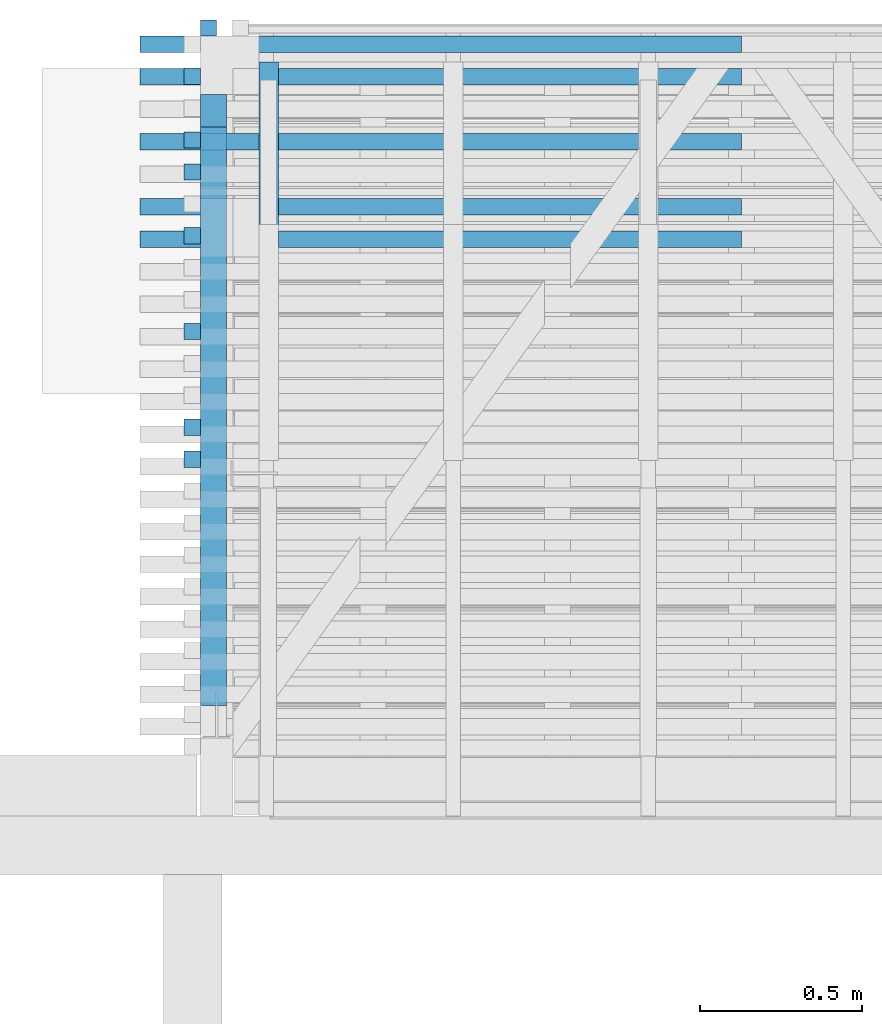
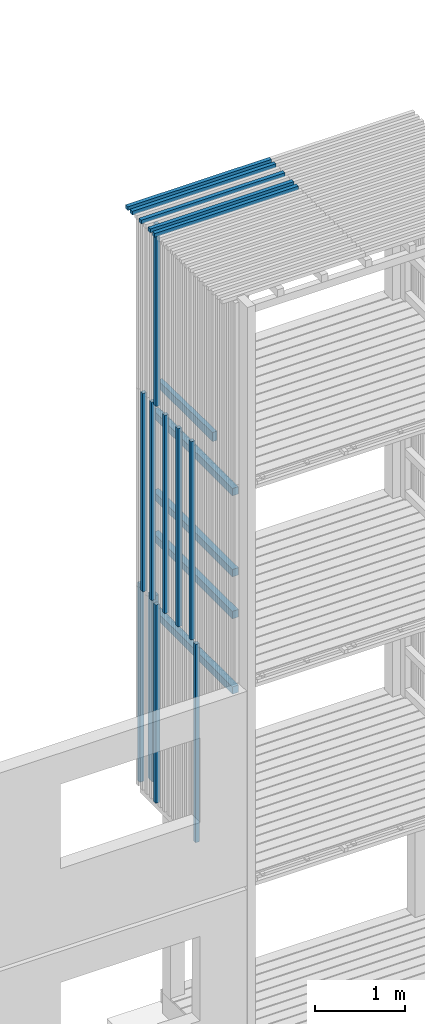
# One storey, part 42 of 182: 20 beams.
"""IFC2X3 building model written with IfcOpenShell, lengths in metres."""

from ifc_helpers import new_model, si_unit, frame, origin, place, context, project, spatial, faceted_brep, element, save


model = new_model("IFC2X3")

# Units and contexts
model_context = context("Model", 3, precision=1e-06, world=origin())
ifc_project = project(units=[si_unit("LENGTHUNIT", "METRE"), si_unit("PLANEANGLEUNIT", "RADIAN")], contexts=[model_context])

# Site, building, storey
site = spatial("IfcSite", under=ifc_project, CompositionType="ELEMENT")
building = spatial("IfcBuilding", under=site, CompositionType="ELEMENT")
storey = spatial("IfcBuildingStorey", under=building, Name="vs", CompositionType="ELEMENT", Elevation=-0.85)

# Beams
placement = place(None, origin())
beam_1_placement = place(placement, frame((14.989197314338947, 12.545077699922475, 10.47999999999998), z_axis=(0.0, 0.0, 1.0), x_axis=(-1.0, -2e-15, 0.0)))
element("IfcBeam", 1, at=beam_1_placement, inside=storey, Name="Bardage", context=model_context, shape_type="Brep", body=[
    faceted_brep([(1.850000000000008, -0.025000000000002, -0.024999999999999), (1.850000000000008, -0.025000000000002, 0.025000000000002), (-1e-15, -0.025000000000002, 0.025000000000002), (-1e-15, -0.025000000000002, -0.024999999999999), (1.850000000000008, -0.025000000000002, 0.025000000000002), (1.850000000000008, -0.025000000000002, -0.024999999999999), (1.850000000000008, 0.024999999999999, -0.024999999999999), (1.850000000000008, 0.024999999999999, 0.025000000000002), (1.850000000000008, 0.024999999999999, -0.024999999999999), (1.850000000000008, -0.025000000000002, -0.024999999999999), (-1e-15, -0.025000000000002, -0.024999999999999), (0.0, 0.025000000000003, -0.024999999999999), (1.850000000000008, 0.024999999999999, 0.025000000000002), (1.850000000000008, 0.024999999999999, -0.024999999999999), (0.0, 0.025000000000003, -0.024999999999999), (0.0, 0.025000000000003, 0.025000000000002), (-1e-15, -0.025000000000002, 0.025000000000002), (1.850000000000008, -0.025000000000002, 0.025000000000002), (1.850000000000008, 0.024999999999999, 0.025000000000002), (0.0, 0.025000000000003, 0.025000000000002), (-1e-15, -0.025000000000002, -0.024999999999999), (-1e-15, -0.025000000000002, 0.025000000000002), (0.0, 0.025000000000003, 0.025000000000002), (0.0, 0.025000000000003, -0.024999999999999)], [[[0, 1, 2, 3]], [[4, 5, 6, 7]], [[8, 9, 10, 11]], [[12, 13, 14, 15]], [[16, 17, 18, 19]], [[20, 21, 22, 23]]]),
])
beam_2_placement = place(placement, frame((13.349197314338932, 12.895077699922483, 2.575000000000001), z_axis=(0.0, -1.0, 0.0), x_axis=(0.0, 0.0, 1.0)))
element("IfcBeam", 2, at=beam_2_placement, inside=storey, Name="Bardage", context=model_context, shape_type="Brep", body=[
    faceted_brep([(0.0, -0.025000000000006, 0.025000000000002), (0.0, 0.024999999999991, 0.025000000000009), (0.0, 0.025000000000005, -0.024999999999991), (0.0, -0.024999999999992, -0.024999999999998), (2.699961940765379, 0.025000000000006, -0.024999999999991), (2.699961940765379, 0.024999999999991, 0.025000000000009), (2.699961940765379, -0.025000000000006, 0.025000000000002), (2.699961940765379, -0.024999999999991, -0.024999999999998), (0.0, -0.024999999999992, -0.024999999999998), (0.0, 0.025000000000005, -0.024999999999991), (2.699961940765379, 0.025000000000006, -0.024999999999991), (2.699961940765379, -0.024999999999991, -0.024999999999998), (2.699961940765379, 0.025000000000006, -0.024999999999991), (0.0, 0.025000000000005, -0.024999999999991), (0.0, 0.024999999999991, 0.025000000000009), (2.699961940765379, 0.024999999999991, 0.025000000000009), (2.699961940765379, 0.024999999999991, 0.025000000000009), (0.0, 0.024999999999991, 0.025000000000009), (0.0, -0.025000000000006, 0.025000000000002), (2.699961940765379, -0.025000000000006, 0.025000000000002), (2.699961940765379, -0.025000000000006, 0.025000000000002), (0.0, -0.025000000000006, 0.025000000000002), (0.0, -0.024999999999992, -0.024999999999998), (2.699961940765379, -0.024999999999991, -0.024999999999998)], [[[0, 1, 2, 3]], [[4, 5, 6, 7]], [[8, 9, 10, 11]], [[12, 13, 14, 15]], [[16, 17, 18, 19]], [[20, 21, 22, 23]]]),
])
beam_3_placement = place(placement, frame((13.299197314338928, 12.550532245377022, 5.274999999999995), z_axis=(1.0, 0.0, 0.0), x_axis=(0.0, 0.0, 1.0)))
element("IfcBeam", 3, at=beam_3_placement, inside=storey, Name="Bardage", context=model_context, shape_type="Brep", body=[
    faceted_brep([(2.699999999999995, 0.025000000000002, 0.025000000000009), (2.699999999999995, -0.025000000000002, 0.025000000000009), (2.699999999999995, -0.025000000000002, -0.025000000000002), (2.699999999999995, 0.025000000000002, -0.025000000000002), (1e-15, 0.025000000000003, 0.025000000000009), (2.699999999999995, 0.025000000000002, 0.025000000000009), (2.699999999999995, 0.025000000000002, -0.025000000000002), (1e-15, 0.025000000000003, -0.025000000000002), (1e-15, -0.025000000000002, 0.025000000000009), (1e-15, 0.025000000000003, 0.025000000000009), (1e-15, 0.025000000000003, -0.025000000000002), (1e-15, -0.025000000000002, -0.025000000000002), (1e-15, 0.025000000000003, 0.025000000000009), (1e-15, -0.025000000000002, 0.025000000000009), (2.699999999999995, -0.025000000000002, 0.025000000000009), (2.699999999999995, 0.025000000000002, 0.025000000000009), (1e-15, -0.025000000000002, 0.025000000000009), (1e-15, -0.025000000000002, -0.025000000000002), (2.699999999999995, -0.025000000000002, -0.025000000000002), (2.699999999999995, -0.025000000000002, 0.025000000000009), (1e-15, -0.025000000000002, -0.025000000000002), (1e-15, 0.025000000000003, -0.025000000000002), (2.699999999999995, 0.025000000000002, -0.025000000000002), (2.699999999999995, -0.025000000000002, -0.025000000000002)], [[[0, 1, 2, 3]], [[4, 5, 6, 7]], [[8, 9, 10, 11]], [[12, 13, 14, 15]], [[16, 17, 18, 19]], [[20, 21, 22, 23]]]),
])
beam_4_placement = place(placement, frame((14.989197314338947, 12.845077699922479, 10.47999999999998), z_axis=(0.0, 0.0, 1.0), x_axis=(-1.0, 0.0, 0.0)))
element("IfcBeam", 4, at=beam_4_placement, inside=storey, Name="Bardage", context=model_context, shape_type="Brep", body=[
    faceted_brep([(1.850000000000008, -0.024999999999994, -0.024999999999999), (1.850000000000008, -0.024999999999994, 0.025000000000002), (-1e-15, -0.024999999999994, 0.025000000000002), (-1e-15, -0.024999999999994, -0.024999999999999), (1.850000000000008, -0.024999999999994, 0.025000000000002), (1.850000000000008, -0.024999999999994, -0.024999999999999), (1.850000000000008, 0.025000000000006, -0.024999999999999), (1.850000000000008, 0.025000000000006, 0.025000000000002), (1.850000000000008, 0.025000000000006, -0.024999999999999), (1.850000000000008, -0.024999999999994, -0.024999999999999), (-1e-15, -0.024999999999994, -0.024999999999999), (-1e-15, 0.025000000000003, -0.024999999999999), (1.850000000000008, 0.025000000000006, 0.025000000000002), (1.850000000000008, 0.025000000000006, -0.024999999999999), (-1e-15, 0.025000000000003, -0.024999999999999), (-1e-15, 0.025000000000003, 0.025000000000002), (-1e-15, -0.024999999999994, 0.025000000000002), (1.850000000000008, -0.024999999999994, 0.025000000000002), (1.850000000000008, 0.025000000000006, 0.025000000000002), (-1e-15, 0.025000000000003, 0.025000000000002), (-1e-15, -0.024999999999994, -0.024999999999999), (-1e-15, -0.024999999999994, 0.025000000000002), (-1e-15, 0.025000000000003, 0.025000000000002), (-1e-15, 0.025000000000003, -0.024999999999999)], [[[0, 1, 2, 3]], [[4, 5, 6, 7]], [[8, 9, 10, 11]], [[12, 13, 14, 15]], [[16, 17, 18, 19]], [[20, 21, 22, 23]]]),
])
beam_5_placement = place(placement, frame((13.364197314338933, 12.640077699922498, 2.746999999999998), z_axis=(0.0, -1.0, 0.0), x_axis=(0.0, 0.0, 1.0)))
element("IfcBeam", 5, at=beam_5_placement, inside=storey, Name="Support bardage", context=model_context, shape_type="Brep", body=[
    faceted_brep([(2.527961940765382, 0.039999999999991, 0.049999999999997), (2.527961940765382, -0.040000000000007, 0.049999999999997), (2.527961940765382, -0.040000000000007, -0.050000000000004), (2.527961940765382, 0.039999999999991, -0.050000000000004), (0.0, 0.039999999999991, 0.049999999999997), (2.527961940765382, 0.039999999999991, 0.049999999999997), (2.527961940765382, 0.039999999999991, -0.050000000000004), (0.0, 0.039999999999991, -0.050000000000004), (0.0, 0.039999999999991, 0.049999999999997), (0.0, 0.039999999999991, -0.050000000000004), (0.0, -0.040000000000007, -0.050000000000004), (0.0, -0.040000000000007, 0.049999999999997), (0.0, 0.039999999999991, 0.049999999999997), (0.0, -0.040000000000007, 0.049999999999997), (2.527961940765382, -0.040000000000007, 0.049999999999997), (2.527961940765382, 0.039999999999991, 0.049999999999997), (0.0, -0.040000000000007, 0.049999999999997), (0.0, -0.040000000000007, -0.050000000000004), (2.527961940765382, -0.040000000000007, -0.050000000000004), (2.527961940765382, -0.040000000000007, 0.049999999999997), (0.0, -0.040000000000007, -0.050000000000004), (0.0, 0.039999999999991, -0.050000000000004), (2.527961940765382, 0.039999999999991, -0.050000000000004), (2.527961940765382, -0.040000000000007, -0.050000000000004)], [[[0, 1, 2, 3]], [[4, 5, 6, 7]], [[8, 9, 10, 11]], [[12, 13, 14, 15]], [[16, 17, 18, 19]], [[20, 21, 22, 23]]]),
])
beam_6_placement = place(placement, frame((14.989197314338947, 12.745077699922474, 10.47999999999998), z_axis=(0.0, 0.0, 1.0), x_axis=(-1.0, 0.0, 0.0)))
element("IfcBeam", 6, at=beam_6_placement, inside=storey, Name="Bardage", context=model_context, shape_type="Brep", body=[
    faceted_brep([(1.850000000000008, -0.024999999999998, -0.024999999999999), (1.850000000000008, -0.024999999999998, 0.025000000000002), (-1e-15, -0.024999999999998, 0.025000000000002), (-1e-15, -0.024999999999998, -0.024999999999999), (1.850000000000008, -0.024999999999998, 0.025000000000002), (1.850000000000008, -0.024999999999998, -0.024999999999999), (1.850000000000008, 0.024999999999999, -0.024999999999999), (1.850000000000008, 0.024999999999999, 0.025000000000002), (1.850000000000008, 0.024999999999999, -0.024999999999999), (1.850000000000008, -0.024999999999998, -0.024999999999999), (-1e-15, -0.024999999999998, -0.024999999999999), (-1e-15, 0.024999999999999, -0.024999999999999), (1.850000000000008, 0.024999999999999, 0.025000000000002), (1.850000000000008, 0.024999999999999, -0.024999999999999), (-1e-15, 0.024999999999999, -0.024999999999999), (-1e-15, 0.024999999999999, 0.025000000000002), (-1e-15, -0.024999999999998, 0.025000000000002), (1.850000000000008, -0.024999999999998, 0.025000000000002), (1.850000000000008, 0.024999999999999, 0.025000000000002), (-1e-15, 0.024999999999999, 0.025000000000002), (-1e-15, -0.024999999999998, -0.024999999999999), (-1e-15, -0.024999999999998, 0.025000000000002), (-1e-15, 0.024999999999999, 0.025000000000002), (-1e-15, 0.024999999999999, -0.024999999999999)], [[[0, 1, 2, 3]], [[4, 5, 6, 7]], [[8, 9, 10, 11]], [[12, 13, 14, 15]], [[16, 17, 18, 19]], [[20, 21, 22, 23]]]),
])
beam_7_placement = place(placement, frame((13.299197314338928, 12.746895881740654, 5.274999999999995), z_axis=(1.0, 0.0, 0.0), x_axis=(0.0, 0.0, 1.0)))
element("IfcBeam", 7, at=beam_7_placement, inside=storey, Name="Bardage", context=model_context, shape_type="Brep", body=[
    faceted_brep([(2.699999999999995, 0.024999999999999, 0.025000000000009), (2.699999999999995, -0.025000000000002, 0.025000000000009), (2.699999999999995, -0.025000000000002, -0.025000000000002), (2.699999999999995, 0.024999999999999, -0.025000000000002), (1e-15, 0.024999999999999, 0.025000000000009), (2.699999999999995, 0.024999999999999, 0.025000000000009), (2.699999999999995, 0.024999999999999, -0.025000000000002), (1e-15, 0.024999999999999, -0.025000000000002), (1e-15, -0.024999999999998, 0.025000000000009), (1e-15, 0.024999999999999, 0.025000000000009), (1e-15, 0.024999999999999, -0.025000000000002), (1e-15, -0.024999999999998, -0.025000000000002), (1e-15, 0.024999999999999, 0.025000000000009), (1e-15, -0.024999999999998, 0.025000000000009), (2.699999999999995, -0.025000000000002, 0.025000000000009), (2.699999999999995, 0.024999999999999, 0.025000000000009), (1e-15, -0.024999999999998, 0.025000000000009), (1e-15, -0.024999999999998, -0.025000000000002), (2.699999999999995, -0.025000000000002, -0.025000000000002), (2.699999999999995, -0.025000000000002, 0.025000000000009), (1e-15, -0.024999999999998, -0.025000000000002), (1e-15, 0.024999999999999, -0.025000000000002), (2.699999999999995, 0.024999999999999, -0.025000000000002), (2.699999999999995, -0.025000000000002, -0.025000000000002)], [[[0, 1, 2, 3]], [[4, 5, 6, 7]], [[8, 9, 10, 11]], [[12, 13, 14, 15]], [[16, 17, 18, 19]], [[20, 21, 22, 23]]]),
])
beam_8_placement = place(placement, frame((13.364197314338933, 10.810077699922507, 6.672499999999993), z_axis=(0.0, 0.0, 1.0), x_axis=(0.0, 1.0, 0.0)))
element("IfcBeam", 8, at=beam_8_placement, inside=storey, Name="Support bardage", context=model_context, shape_type="Brep", body=[
    faceted_brep([(1.779999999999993, 0.039999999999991, -0.05), (1.779999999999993, 0.039999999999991, 0.050000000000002), (1.779999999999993, -0.040000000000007, 0.050000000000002), (1.779999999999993, -0.040000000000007, -0.05), (1.779999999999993, -0.040000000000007, 0.050000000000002), (1.779999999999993, 0.039999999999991, 0.050000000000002), (-4e-15, 0.039999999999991, 0.050000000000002), (-4e-15, -0.040000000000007, 0.050000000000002), (-4e-15, 0.039999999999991, 0.050000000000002), (1.779999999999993, 0.039999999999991, 0.050000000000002), (1.779999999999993, 0.039999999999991, -0.05), (-4e-15, 0.039999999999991, -0.05), (1.779999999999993, -0.040000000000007, -0.05), (1.779999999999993, -0.040000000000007, 0.050000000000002), (-4e-15, -0.040000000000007, 0.050000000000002), (-4e-15, -0.040000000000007, -0.05), (-4e-15, 0.039999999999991, -0.05), (1.779999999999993, 0.039999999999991, -0.05), (1.779999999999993, -0.040000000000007, -0.05), (-4e-15, -0.040000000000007, -0.05), (-4e-15, 0.039999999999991, 0.050000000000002), (-4e-15, 0.039999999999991, -0.05), (-4e-15, -0.040000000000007, -0.05), (-4e-15, -0.040000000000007, 0.050000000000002)], [[[0, 1, 2, 3]], [[4, 5, 6, 7]], [[8, 9, 10, 11]], [[12, 13, 14, 15]], [[16, 17, 18, 19]], [[20, 21, 22, 23]]]),
])
beam_9_placement = place(placement, frame((13.299197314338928, 11.666895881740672, 5.274999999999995), z_axis=(1.0, 0.0, 0.0), x_axis=(0.0, 0.0, 1.0)))
element("IfcBeam", 9, at=beam_9_placement, inside=storey, Name="Bardage", context=model_context, shape_type="Brep", body=[
    faceted_brep([(2.699999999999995, 0.025000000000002, 0.025000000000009), (2.699999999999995, -0.024999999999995, 0.025000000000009), (2.699999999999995, -0.024999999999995, -0.025000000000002), (2.699999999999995, 0.025000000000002, -0.025000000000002), (1e-15, 0.025000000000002, 0.025000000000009), (2.699999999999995, 0.025000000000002, 0.025000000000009), (2.699999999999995, 0.025000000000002, -0.025000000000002), (1e-15, 0.025000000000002, -0.025000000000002), (1e-15, -0.024999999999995, 0.025000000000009), (1e-15, 0.025000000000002, 0.025000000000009), (1e-15, 0.025000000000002, -0.025000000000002), (1e-15, -0.024999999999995, -0.025000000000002), (1e-15, 0.025000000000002, 0.025000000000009), (1e-15, -0.024999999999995, 0.025000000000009), (2.699999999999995, -0.024999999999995, 0.025000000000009), (2.699999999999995, 0.025000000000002, 0.025000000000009), (1e-15, -0.024999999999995, 0.025000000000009), (1e-15, -0.024999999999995, -0.025000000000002), (2.699999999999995, -0.024999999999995, -0.025000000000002), (2.699999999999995, -0.024999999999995, 0.025000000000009), (1e-15, -0.024999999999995, -0.025000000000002), (1e-15, 0.025000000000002, -0.025000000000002), (2.699999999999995, 0.025000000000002, -0.025000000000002), (2.699999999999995, -0.024999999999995, -0.025000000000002)], [[[0, 1, 2, 3]], [[4, 5, 6, 7]], [[8, 9, 10, 11]], [[12, 13, 14, 15]], [[16, 17, 18, 19]], [[20, 21, 22, 23]]]),
])
beam_10_placement = place(placement, frame((13.299197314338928, 12.452350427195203, 7.974999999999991), z_axis=(1.0, 0.0, 0.0), x_axis=(0.0, 0.0, 1.0)))
element("IfcBeam", 10, at=beam_10_placement, inside=storey, Name="Bardage", context=model_context, shape_type="Brep", body=[
    faceted_brep([(0.0, -0.024999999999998, 0.025000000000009), (0.0, 0.024999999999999, 0.025000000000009), (0.0, 0.024999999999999, -0.025000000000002), (0.0, -0.024999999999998, -0.025000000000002), (2.479999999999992, 0.024999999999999, -0.025000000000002), (2.479999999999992, 0.024999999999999, 0.025000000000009), (2.479999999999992, -0.024999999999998, 0.025000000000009), (2.479999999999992, -0.024999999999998, -0.025000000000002), (0.0, 0.024999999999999, 0.025000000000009), (0.0, -0.024999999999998, 0.025000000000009), (2.479999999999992, -0.024999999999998, 0.025000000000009), (2.479999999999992, 0.024999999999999, 0.025000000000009), (0.0, 0.024999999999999, -0.025000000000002), (0.0, 0.024999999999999, 0.025000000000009), (2.479999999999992, 0.024999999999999, 0.025000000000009), (2.479999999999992, 0.024999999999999, -0.025000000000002), (0.0, -0.024999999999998, -0.025000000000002), (0.0, 0.024999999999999, -0.025000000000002), (2.479999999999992, 0.024999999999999, -0.025000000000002), (2.479999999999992, -0.024999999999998, -0.025000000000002), (2.479999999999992, -0.024999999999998, 0.025000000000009), (0.0, -0.024999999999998, 0.025000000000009), (0.0, -0.024999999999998, -0.025000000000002), (2.479999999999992, -0.024999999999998, -0.025000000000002)], [[[0, 1, 2, 3]], [[4, 5, 6, 7]], [[8, 9, 10, 11]], [[12, 13, 14, 15]], [[16, 17, 18, 19]], [[20, 21, 22, 23]]]),
])
beam_11_placement = place(placement, frame((13.299197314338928, 12.452350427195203, 2.575000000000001), z_axis=(1.0, 0.0, 0.0), x_axis=(0.0, 0.0, 1.0)))
element("IfcBeam", 11, at=beam_11_placement, inside=storey, Name="Bardage", context=model_context, shape_type="Brep", body=[
    faceted_brep([(2.699961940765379, -0.024999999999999, 0.025000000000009), (2.699961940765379, -0.024999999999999, -0.025000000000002), (2.699961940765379, 0.024999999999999, -0.025000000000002), (2.699961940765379, 0.024999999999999, 0.025000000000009), (0.0, -0.024999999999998, 0.025000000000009), (2.699961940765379, -0.024999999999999, 0.025000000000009), (2.699961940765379, 0.024999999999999, 0.025000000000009), (0.0, 0.024999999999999, 0.025000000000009), (0.0, -0.024999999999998, 0.025000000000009), (0.0, 0.024999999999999, 0.025000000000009), (0.0, 0.024999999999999, -0.025000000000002), (0.0, -0.024999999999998, -0.025000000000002), (0.0, -0.024999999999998, 0.025000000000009), (0.0, -0.024999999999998, -0.025000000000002), (2.699961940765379, -0.024999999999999, -0.025000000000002), (2.699961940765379, -0.024999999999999, 0.025000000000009), (0.0, -0.024999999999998, -0.025000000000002), (0.0, 0.024999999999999, -0.025000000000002), (2.699961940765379, 0.024999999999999, -0.025000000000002), (2.699961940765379, -0.024999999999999, -0.025000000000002), (0.0, 0.024999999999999, -0.025000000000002), (0.0, 0.024999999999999, 0.025000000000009), (2.699961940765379, 0.024999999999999, 0.025000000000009), (2.699961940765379, 0.024999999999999, -0.025000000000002)], [[[0, 1, 2, 3]], [[4, 5, 6, 7]], [[8, 9, 10, 11]], [[12, 13, 14, 15]], [[16, 17, 18, 19]], [[20, 21, 22, 23]]]),
])
beam_12_placement = place(placement, frame((13.534197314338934, 11.565077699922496, 8.00424999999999), z_axis=(0.0, 0.0, 1.0), x_axis=(0.0, 1.0, 0.0)))
element("IfcBeam", 12, at=beam_12_placement, inside=storey, Name="Solive", context=model_context, shape_type="Brep", body=[
    faceted_brep([(0.0, -0.030000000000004, -0.061849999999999), (1.225000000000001, -0.030000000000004, -0.061849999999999), (1.225000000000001, -0.030000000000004, 0.037349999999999), (0.0, -0.030000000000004, 0.061849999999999), (0.0, 0.029999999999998, -0.061849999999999), (1.225000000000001, 0.029999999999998, -0.061849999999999), (1.225000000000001, -0.030000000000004, -0.061849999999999), (0.0, -0.030000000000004, -0.061849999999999), (0.0, 0.029999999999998, 0.061850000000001), (0.0, 0.029999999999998, -0.061849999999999), (0.0, -0.030000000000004, -0.061849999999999), (0.0, -0.030000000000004, 0.061849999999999), (1.225000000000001, 0.029999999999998, -0.061849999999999), (0.0, 0.029999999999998, -0.061849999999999), (0.0, 0.029999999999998, 0.061850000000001), (1.225000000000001, 0.029999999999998, 0.037349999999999), (1.225000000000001, -0.030000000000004, 0.037349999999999), (1.225000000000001, -0.030000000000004, -0.061849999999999), (1.225000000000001, 0.029999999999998, -0.061849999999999), (1.225000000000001, 0.029999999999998, 0.037349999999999), (0.0, -0.030000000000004, 0.061849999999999), (1.225000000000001, -0.030000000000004, 0.037349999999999), (1.225000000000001, 0.029999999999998, 0.037349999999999), (0.0, 0.029999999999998, 0.061850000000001)], [[[0, 1, 2, 3]], [[4, 5, 6, 7]], [[8, 9, 10, 11]], [[12, 13, 14, 15]], [[16, 17, 18, 19]], [[20, 21, 22, 23]]]),
])
beam_13_placement = place(placement, frame((13.364197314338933, 10.810077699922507, 5.074999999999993), z_axis=(0.0, 0.0, 1.0), x_axis=(0.0, 1.0, 0.0)))
element("IfcBeam", 13, at=beam_13_placement, inside=storey, Name="Support bardage", context=model_context, shape_type="Brep", body=[
    faceted_brep([(1.779999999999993, 0.039999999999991, -0.050000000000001), (1.779999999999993, 0.039999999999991, 0.050000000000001), (1.779999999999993, -0.040000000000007, 0.050000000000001), (1.779999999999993, -0.040000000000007, -0.050000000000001), (1.779999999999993, -0.040000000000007, 0.050000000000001), (1.779999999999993, 0.039999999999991, 0.050000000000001), (-4e-15, 0.039999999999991, 0.050000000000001), (-4e-15, -0.040000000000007, 0.050000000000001), (-4e-15, 0.039999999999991, 0.050000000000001), (1.779999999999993, 0.039999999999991, 0.050000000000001), (1.779999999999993, 0.039999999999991, -0.050000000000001), (-4e-15, 0.039999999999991, -0.050000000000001), (1.779999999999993, -0.040000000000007, -0.050000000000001), (1.779999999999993, -0.040000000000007, 0.050000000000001), (-4e-15, -0.040000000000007, 0.050000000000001), (-4e-15, -0.040000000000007, -0.050000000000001), (-4e-15, 0.039999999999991, -0.050000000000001), (1.779999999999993, 0.039999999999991, -0.050000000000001), (1.779999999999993, -0.040000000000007, -0.050000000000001), (-4e-15, -0.040000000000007, -0.050000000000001), (-4e-15, 0.039999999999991, 0.050000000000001), (-4e-15, 0.039999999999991, -0.050000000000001), (-4e-15, -0.040000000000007, -0.050000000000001), (-4e-15, -0.040000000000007, 0.050000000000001)], [[[0, 1, 2, 3]], [[4, 5, 6, 7]], [[8, 9, 10, 11]], [[12, 13, 14, 15]], [[16, 17, 18, 19]], [[20, 21, 22, 23]]]),
])
beam_14_placement = place(placement, frame((13.299197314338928, 11.568714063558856, 2.575000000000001), z_axis=(1.0, 0.0, 0.0), x_axis=(0.0, 0.0, 1.0)))
element("IfcBeam", 14, at=beam_14_placement, inside=storey, Name="Bardage", context=model_context, shape_type="Brep", body=[
    faceted_brep([(2.699961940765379, -0.024999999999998, 0.025000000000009), (2.699961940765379, -0.024999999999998, -0.025000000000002), (2.699961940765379, 0.025000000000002, -0.025000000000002), (2.699961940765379, 0.025000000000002, 0.025000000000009), (0.0, -0.024999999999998, 0.025000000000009), (2.699961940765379, -0.024999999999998, 0.025000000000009), (2.699961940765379, 0.025000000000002, 0.025000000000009), (0.0, 0.025000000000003, 0.025000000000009), (0.0, -0.024999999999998, 0.025000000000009), (0.0, 0.025000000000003, 0.025000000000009), (0.0, 0.025000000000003, -0.025000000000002), (0.0, -0.024999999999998, -0.025000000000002), (0.0, -0.024999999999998, 0.025000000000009), (0.0, -0.024999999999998, -0.025000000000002), (2.699961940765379, -0.024999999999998, -0.025000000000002), (2.699961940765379, -0.024999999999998, 0.025000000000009), (0.0, -0.024999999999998, -0.025000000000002), (0.0, 0.025000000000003, -0.025000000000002), (2.699961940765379, 0.025000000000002, -0.025000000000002), (2.699961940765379, -0.024999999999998, -0.025000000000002), (0.0, 0.025000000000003, -0.025000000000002), (0.0, 0.025000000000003, 0.025000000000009), (2.699961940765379, 0.025000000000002, 0.025000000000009), (2.699961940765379, 0.025000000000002, -0.025000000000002)], [[[0, 1, 2, 3]], [[4, 5, 6, 7]], [[8, 9, 10, 11]], [[12, 13, 14, 15]], [[16, 17, 18, 19]], [[20, 21, 22, 23]]]),
])
beam_15_placement = place(placement, frame((13.299197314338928, 12.25598679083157, 5.274999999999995), z_axis=(1.0, 0.0, 0.0), x_axis=(0.0, 0.0, 1.0)))
element("IfcBeam", 15, at=beam_15_placement, inside=storey, Name="Bardage", context=model_context, shape_type="Brep", body=[
    faceted_brep([(2.699999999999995, 0.024999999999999, 0.025000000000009), (2.699999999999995, -0.025000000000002, 0.025000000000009), (2.699999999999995, -0.025000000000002, -0.025000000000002), (2.699999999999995, 0.024999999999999, -0.025000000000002), (1e-15, 0.024999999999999, 0.025000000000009), (2.699999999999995, 0.024999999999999, 0.025000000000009), (2.699999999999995, 0.024999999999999, -0.025000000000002), (1e-15, 0.024999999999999, -0.025000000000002), (1e-15, -0.025000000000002, 0.025000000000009), (1e-15, 0.024999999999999, 0.025000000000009), (1e-15, 0.024999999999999, -0.025000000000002), (1e-15, -0.025000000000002, -0.025000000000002), (1e-15, 0.024999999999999, 0.025000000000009), (1e-15, -0.025000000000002, 0.025000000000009), (2.699999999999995, -0.025000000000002, 0.025000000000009), (2.699999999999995, 0.024999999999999, 0.025000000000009), (1e-15, -0.025000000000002, 0.025000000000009), (1e-15, -0.025000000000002, -0.025000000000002), (2.699999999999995, -0.025000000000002, -0.025000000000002), (2.699999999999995, -0.025000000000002, 0.025000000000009), (1e-15, -0.025000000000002, -0.025000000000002), (1e-15, 0.024999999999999, -0.025000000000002), (2.699999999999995, 0.024999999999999, -0.025000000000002), (2.699999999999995, -0.025000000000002, -0.025000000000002)], [[[0, 1, 2, 3]], [[4, 5, 6, 7]], [[8, 9, 10, 11]], [[12, 13, 14, 15]], [[16, 17, 18, 19]], [[20, 21, 22, 23]]]),
])
beam_16_placement = place(placement, frame((14.989197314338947, 12.245077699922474, 10.47999999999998), z_axis=(0.0, 0.0, 1.0), x_axis=(-1.0, 0.0, 0.0)))
element("IfcBeam", 16, at=beam_16_placement, inside=storey, Name="Bardage", context=model_context, shape_type="Brep", body=[
    faceted_brep([(1.850000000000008, -0.024999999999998, -0.024999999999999), (1.850000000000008, -0.024999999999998, 0.025000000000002), (-1e-15, -0.024999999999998, 0.025000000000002), (-1e-15, -0.024999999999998, -0.024999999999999), (1.850000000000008, -0.024999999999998, 0.025000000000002), (1.850000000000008, -0.024999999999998, -0.024999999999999), (1.850000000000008, 0.024999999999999, -0.024999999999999), (1.850000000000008, 0.024999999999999, 0.025000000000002), (1.850000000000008, 0.024999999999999, -0.024999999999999), (1.850000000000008, -0.024999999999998, -0.024999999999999), (-1e-15, -0.024999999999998, -0.024999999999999), (-1e-15, 0.024999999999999, -0.024999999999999), (1.850000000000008, 0.024999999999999, 0.025000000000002), (1.850000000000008, 0.024999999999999, -0.024999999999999), (-1e-15, 0.024999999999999, -0.024999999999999), (-1e-15, 0.024999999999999, 0.025000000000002), (-1e-15, -0.024999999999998, 0.025000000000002), (1.850000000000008, -0.024999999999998, 0.025000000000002), (1.850000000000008, 0.024999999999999, 0.025000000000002), (-1e-15, 0.024999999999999, 0.025000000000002), (-1e-15, -0.024999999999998, -0.024999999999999), (-1e-15, -0.024999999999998, 0.025000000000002), (-1e-15, 0.024999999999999, 0.025000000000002), (-1e-15, 0.024999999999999, -0.024999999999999)], [[[0, 1, 2, 3]], [[4, 5, 6, 7]], [[8, 9, 10, 11]], [[12, 13, 14, 15]], [[16, 17, 18, 19]], [[20, 21, 22, 23]]]),
])
beam_17_placement = place(placement, frame((14.989197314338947, 12.345077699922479, 10.47999999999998), z_axis=(0.0, 0.0, 1.0), x_axis=(-1.0, 0.0, 0.0)))
element("IfcBeam", 17, at=beam_17_placement, inside=storey, Name="Bardage", context=model_context, shape_type="Brep", body=[
    faceted_brep([(1.850000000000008, -0.024999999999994, -0.024999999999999), (1.850000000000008, -0.024999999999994, 0.025000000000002), (-1e-15, -0.024999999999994, 0.025000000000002), (-1e-15, -0.024999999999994, -0.024999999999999), (1.850000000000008, -0.024999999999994, 0.025000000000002), (1.850000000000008, -0.024999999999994, -0.024999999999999), (1.850000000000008, 0.025000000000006, -0.024999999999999), (1.850000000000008, 0.025000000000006, 0.025000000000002), (1.850000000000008, 0.025000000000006, -0.024999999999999), (1.850000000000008, -0.024999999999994, -0.024999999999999), (-1e-15, -0.024999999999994, -0.024999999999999), (-1e-15, 0.025000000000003, -0.024999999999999), (1.850000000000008, 0.025000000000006, 0.025000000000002), (1.850000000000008, 0.025000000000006, -0.024999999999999), (-1e-15, 0.025000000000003, -0.024999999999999), (-1e-15, 0.025000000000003, 0.025000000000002), (-1e-15, -0.024999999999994, 0.025000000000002), (1.850000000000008, -0.024999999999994, 0.025000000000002), (1.850000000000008, 0.025000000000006, 0.025000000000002), (-1e-15, 0.025000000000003, 0.025000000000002), (-1e-15, -0.024999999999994, -0.024999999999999), (-1e-15, -0.024999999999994, 0.025000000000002), (-1e-15, 0.025000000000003, 0.025000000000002), (-1e-15, 0.025000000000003, -0.024999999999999)], [[[0, 1, 2, 3]], [[4, 5, 6, 7]], [[8, 9, 10, 11]], [[12, 13, 14, 15]], [[16, 17, 18, 19]], [[20, 21, 22, 23]]]),
])
beam_18_placement = place(placement, frame((13.364197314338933, 10.810077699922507, 7.774999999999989), z_axis=(0.0, 0.0, 1.0), x_axis=(0.0, 1.0, 0.0)))
element("IfcBeam", 18, at=beam_18_placement, inside=storey, Name="Support bardage", context=model_context, shape_type="Brep", body=[
    faceted_brep([(1.779999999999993, 0.039999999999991, -0.050000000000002), (1.779999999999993, 0.039999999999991, 0.050000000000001), (1.779999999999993, -0.040000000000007, 0.050000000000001), (1.779999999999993, -0.040000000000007, -0.050000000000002), (1.779999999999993, -0.040000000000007, 0.050000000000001), (1.779999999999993, 0.039999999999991, 0.050000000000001), (-4e-15, 0.039999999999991, 0.050000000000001), (-4e-15, -0.040000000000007, 0.050000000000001), (-4e-15, 0.039999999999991, 0.050000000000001), (1.779999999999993, 0.039999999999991, 0.050000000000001), (1.779999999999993, 0.039999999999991, -0.050000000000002), (-4e-15, 0.039999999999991, -0.050000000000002), (1.779999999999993, -0.040000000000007, -0.050000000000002), (1.779999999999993, -0.040000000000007, 0.050000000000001), (-4e-15, -0.040000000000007, 0.050000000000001), (-4e-15, -0.040000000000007, -0.050000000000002), (-4e-15, 0.039999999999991, -0.050000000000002), (1.779999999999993, 0.039999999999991, -0.050000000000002), (1.779999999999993, -0.040000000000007, -0.050000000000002), (-4e-15, -0.040000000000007, -0.050000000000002), (-4e-15, 0.039999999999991, 0.050000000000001), (-4e-15, 0.039999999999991, -0.050000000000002), (-4e-15, -0.040000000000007, -0.050000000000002), (-4e-15, -0.040000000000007, 0.050000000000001)], [[[0, 1, 2, 3]], [[4, 5, 6, 7]], [[8, 9, 10, 11]], [[12, 13, 14, 15]], [[16, 17, 18, 19]], [[20, 21, 22, 23]]]),
])
beam_19_placement = place(placement, frame((13.299197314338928, 11.96144133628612, 5.274999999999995), z_axis=(1.0, 0.0, 0.0), x_axis=(0.0, 0.0, 1.0)))
element("IfcBeam", 19, at=beam_19_placement, inside=storey, Name="Bardage", context=model_context, shape_type="Brep", body=[
    faceted_brep([(2.699999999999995, 0.024999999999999, 0.025000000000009), (2.699999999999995, -0.024999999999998, 0.025000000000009), (2.699999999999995, -0.024999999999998, -0.025000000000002), (2.699999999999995, 0.024999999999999, -0.025000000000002), (1e-15, 0.024999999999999, 0.025000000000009), (2.699999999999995, 0.024999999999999, 0.025000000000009), (2.699999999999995, 0.024999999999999, -0.025000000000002), (1e-15, 0.024999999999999, -0.025000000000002), (1e-15, -0.024999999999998, 0.025000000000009), (1e-15, 0.024999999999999, 0.025000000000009), (1e-15, 0.024999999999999, -0.025000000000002), (1e-15, -0.024999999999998, -0.025000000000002), (1e-15, 0.024999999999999, 0.025000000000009), (1e-15, -0.024999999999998, 0.025000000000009), (2.699999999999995, -0.024999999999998, 0.025000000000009), (2.699999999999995, 0.024999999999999, 0.025000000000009), (1e-15, -0.024999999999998, 0.025000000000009), (1e-15, -0.024999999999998, -0.025000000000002), (2.699999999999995, -0.024999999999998, -0.025000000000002), (2.699999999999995, -0.024999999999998, 0.025000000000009), (1e-15, -0.024999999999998, -0.025000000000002), (1e-15, 0.024999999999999, -0.025000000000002), (2.699999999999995, 0.024999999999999, -0.025000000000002), (2.699999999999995, -0.024999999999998, -0.025000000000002)], [[[0, 1, 2, 3]], [[4, 5, 6, 7]], [[8, 9, 10, 11]], [[12, 13, 14, 15]], [[16, 17, 18, 19]], [[20, 21, 22, 23]]]),
])
beam_20_placement = place(placement, frame((13.364197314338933, 10.810077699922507, 6.101249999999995), z_axis=(0.0, 0.0, 1.0), x_axis=(0.0, 1.0, 0.0)))
element("IfcBeam", 20, at=beam_20_placement, inside=storey, Name="Support bardage", context=model_context, shape_type="Brep", body=[
    faceted_brep([(1.779999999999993, 0.039999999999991, -0.05), (1.779999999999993, 0.039999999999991, 0.050000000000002), (1.779999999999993, -0.040000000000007, 0.050000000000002), (1.779999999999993, -0.040000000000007, -0.05), (1.779999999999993, -0.040000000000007, 0.050000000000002), (1.779999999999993, 0.039999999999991, 0.050000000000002), (-4e-15, 0.039999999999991, 0.050000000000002), (-4e-15, -0.040000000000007, 0.050000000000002), (-4e-15, 0.039999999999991, 0.050000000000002), (1.779999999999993, 0.039999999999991, 0.050000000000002), (1.779999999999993, 0.039999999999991, -0.05), (-4e-15, 0.039999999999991, -0.05), (1.779999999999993, -0.040000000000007, -0.05), (1.779999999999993, -0.040000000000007, 0.050000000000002), (-4e-15, -0.040000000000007, 0.050000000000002), (-4e-15, -0.040000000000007, -0.05), (-4e-15, 0.039999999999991, -0.05), (1.779999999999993, 0.039999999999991, -0.05), (1.779999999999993, -0.040000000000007, -0.05), (-4e-15, -0.040000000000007, -0.05), (-4e-15, 0.039999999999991, 0.050000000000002), (-4e-15, 0.039999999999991, -0.05), (-4e-15, -0.040000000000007, -0.05), (-4e-15, -0.040000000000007, 0.050000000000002)], [[[0, 1, 2, 3]], [[4, 5, 6, 7]], [[8, 9, 10, 11]], [[12, 13, 14, 15]], [[16, 17, 18, 19]], [[20, 21, 22, 23]]]),
])

save(model, "model.ifc")
